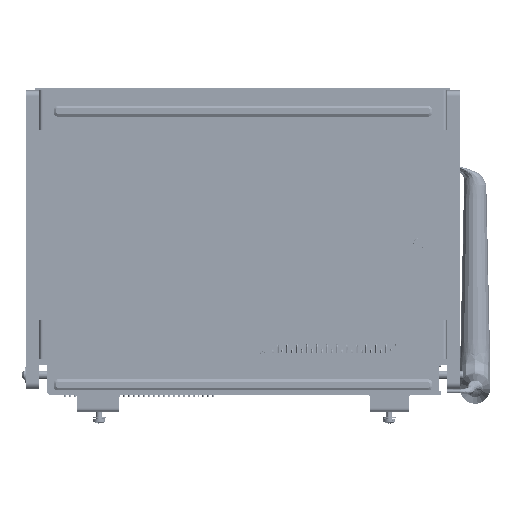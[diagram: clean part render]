
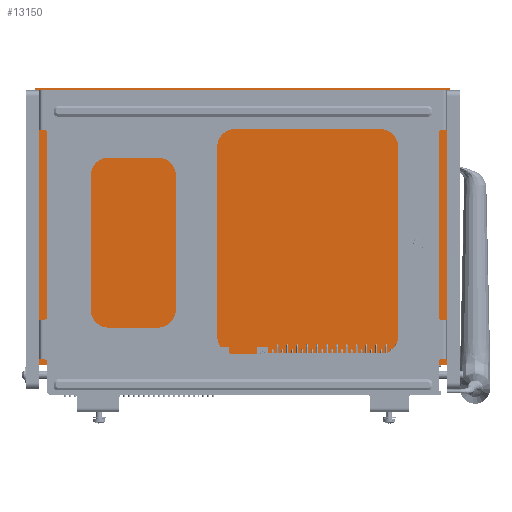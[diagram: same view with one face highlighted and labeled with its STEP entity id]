
A CAD part, left-side view. The second image highlights one B-rep face of the part: STEP entity #13150.
In plain terms, the highlighted planar face has unit normal (-1, 0, 0) as drawn and (0, 1, 0) by its records, which use the part's own axes.
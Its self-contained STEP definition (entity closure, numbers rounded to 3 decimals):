
#13150=ADVANCED_FACE('',(#25337,#25338,#25339,#25340,#25341,#25342,#25343),#25344,.T.);
#25337=FACE_BOUND('',#37684,.T.);
#25338=FACE_BOUND('',#37685,.T.);
#25339=FACE_BOUND('',#37686,.T.);
#25340=FACE_BOUND('',#37687,.T.);
#25341=FACE_BOUND('',#37688,.T.);
#25342=FACE_BOUND('',#37689,.T.);
#25343=FACE_OUTER_BOUND('',#37690,.T.);
#25344=PLANE('',#37691);
#37684=EDGE_LOOP('',(#61002));
#37685=EDGE_LOOP('',(#61003));
#37686=EDGE_LOOP('',(#61004));
#37687=EDGE_LOOP('',(#61005));
#37688=EDGE_LOOP('',(#61006));
#37689=EDGE_LOOP('',(#61007));
#37690=EDGE_LOOP('',(#61008,#61009,#61010,#61011));
#37691=AXIS2_PLACEMENT_3D('',#61012,#61013,#61014);
#61002=ORIENTED_EDGE('',*,*,#73614,.F.);
#61003=ORIENTED_EDGE('',*,*,#73615,.F.);
#61004=ORIENTED_EDGE('',*,*,#73616,.T.);
#61005=ORIENTED_EDGE('',*,*,#73617,.T.);
#61006=ORIENTED_EDGE('',*,*,#73618,.T.);
#61007=ORIENTED_EDGE('',*,*,#73619,.F.);
#61008=ORIENTED_EDGE('',*,*,#73605,.T.);
#61009=ORIENTED_EDGE('',*,*,#73601,.T.);
#61010=ORIENTED_EDGE('',*,*,#73593,.T.);
#61011=ORIENTED_EDGE('',*,*,#73598,.T.);
#61012=CARTESIAN_POINT('',(-17.857,76.6,105.214));
#61013=DIRECTION('',(-0.0,1.0,0.0));
#61014=DIRECTION('',(1.0,0.0,0.0));
#73593=EDGE_CURVE('',#87122,#87120,#87123,.T.);
#73598=EDGE_CURVE('',#87120,#87128,#87130,.T.);
#73601=EDGE_CURVE('',#87134,#87122,#87135,.T.);
#73605=EDGE_CURVE('',#87128,#87134,#87139,.T.);
#73614=EDGE_CURVE('',#87154,#87154,#87155,.T.);
#73615=EDGE_CURVE('',#87156,#87156,#87157,.T.);
#73616=EDGE_CURVE('',#87158,#87158,#87159,.T.);
#73617=EDGE_CURVE('',#87160,#87160,#87161,.T.);
#73618=EDGE_CURVE('',#87162,#87162,#87163,.T.);
#73619=EDGE_CURVE('',#87164,#87164,#87165,.T.);
#87120=VERTEX_POINT('',#108170);
#87122=VERTEX_POINT('',#108173);
#87123=LINE('',#108174,#108175);
#87128=VERTEX_POINT('',#108182);
#87130=LINE('',#108185,#108186);
#87134=VERTEX_POINT('',#108191);
#87135=LINE('',#108192,#108193);
#87139=LINE('',#108199,#108200);
#87154=VERTEX_POINT('',#108215);
#87155=CIRCLE('',#108216,1.5);
#87156=VERTEX_POINT('',#108217);
#87157=CIRCLE('',#108218,1.5);
#87158=VERTEX_POINT('',#108219);
#87159=CIRCLE('',#108220,1.5);
#87160=VERTEX_POINT('',#108221);
#87161=CIRCLE('',#108222,1.5);
#87162=VERTEX_POINT('',#108223);
#87163=CIRCLE('',#108224,1.65);
#87164=VERTEX_POINT('',#108225);
#87165=CIRCLE('',#108226,1.65);
#108170=CARTESIAN_POINT('',(122.143,76.6,-104.786));
#108173=CARTESIAN_POINT('',(122.143,76.6,105.214));
#108174=CARTESIAN_POINT('',(122.143,76.6,105.214));
#108175=VECTOR('',#120963,1.0);
#108182=CARTESIAN_POINT('',(-17.857,76.6,-104.786));
#108185=CARTESIAN_POINT('',(122.143,76.6,-104.786));
#108186=VECTOR('',#120967,1.0);
#108191=CARTESIAN_POINT('',(-17.857,76.6,105.214));
#108192=CARTESIAN_POINT('',(-17.857,76.6,105.214));
#108193=VECTOR('',#120969,1.0);
#108199=CARTESIAN_POINT('',(-17.857,76.6,-104.786));
#108200=VECTOR('',#120972,1.0);
#108215=CARTESIAN_POINT('',(-10.857,76.6,-94.786));
#108216=AXIS2_PLACEMENT_3D('',#120991,#120992,#120993);
#108217=CARTESIAN_POINT('',(-10.857,76.6,-9.786));
#108218=AXIS2_PLACEMENT_3D('',#120994,#120995,#120996);
#108219=CARTESIAN_POINT('',(-10.857,76.6,10.214));
#108220=AXIS2_PLACEMENT_3D('',#120997,#120998,#120999);
#108221=CARTESIAN_POINT('',(-10.857,76.6,95.214));
#108222=AXIS2_PLACEMENT_3D('',#121000,#121001,#121002);
#108223=CARTESIAN_POINT('',(118.543,76.6,99.964));
#108224=AXIS2_PLACEMENT_3D('',#121003,#121004,#121005);
#108225=CARTESIAN_POINT('',(118.543,76.6,-99.536));
#108226=AXIS2_PLACEMENT_3D('',#121006,#121007,#121008);
#120963=DIRECTION('',(0.0,0.0,-1.0));
#120967=DIRECTION('',(-1.0,0.0,0.0));
#120969=DIRECTION('',(1.0,0.0,0.0));
#120972=DIRECTION('',(0.0,0.0,1.0));
#120991=CARTESIAN_POINT('',(-12.357,76.6,-94.786));
#120992=DIRECTION('',(-0.0,1.0,0.0));
#120993=DIRECTION('',(1.0,0.0,0.0));
#120994=CARTESIAN_POINT('',(-12.357,76.6,-9.786));
#120995=DIRECTION('',(-0.0,1.0,0.0));
#120996=DIRECTION('',(1.0,0.0,0.0));
#120997=CARTESIAN_POINT('',(-12.357,76.6,10.214));
#120998=DIRECTION('',(0.0,-1.0,0.0));
#120999=DIRECTION('',(1.0,0.0,0.0));
#121000=CARTESIAN_POINT('',(-12.357,76.6,95.214));
#121001=DIRECTION('',(0.0,-1.0,0.0));
#121002=DIRECTION('',(1.0,0.0,0.0));
#121003=CARTESIAN_POINT('',(116.893,76.6,99.964));
#121004=DIRECTION('',(0.0,-1.0,0.0));
#121005=DIRECTION('',(1.0,0.0,0.0));
#121006=CARTESIAN_POINT('',(116.893,76.6,-99.536));
#121007=DIRECTION('',(-0.0,1.0,0.0));
#121008=DIRECTION('',(1.0,0.0,0.0));
